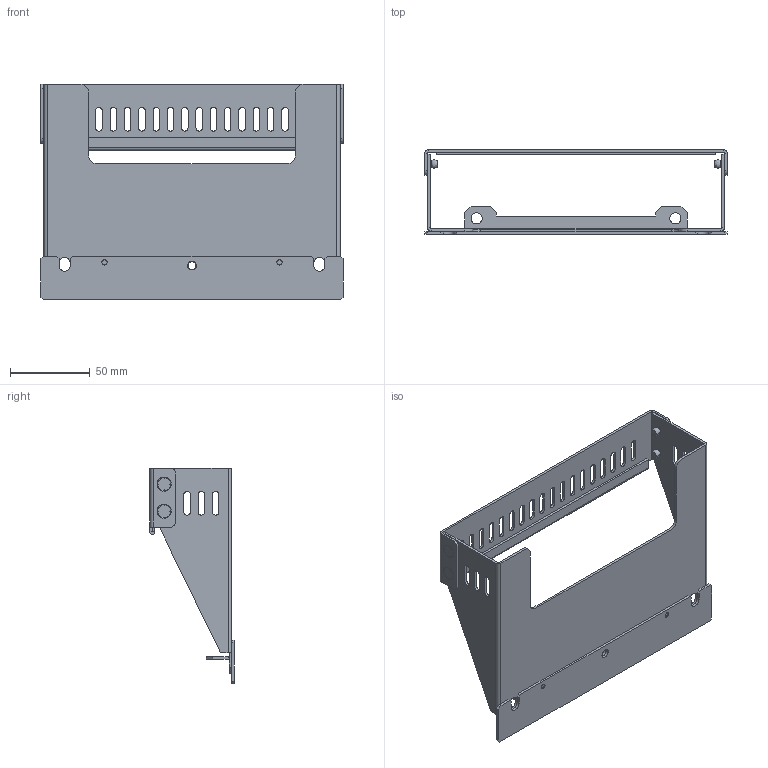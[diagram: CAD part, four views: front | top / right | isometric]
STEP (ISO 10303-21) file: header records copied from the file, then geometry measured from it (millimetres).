
FILE_DESCRIPTION((''),'2;1');
FILE_NAME('ZHZ-GA50V8_ASM','2020-10-19T',('anm'),('YASKAWA ELECTRIC CORCORATION'),'PRO/ENGINEER BY PARAMETRIC TECHNOLOGY CORPORATION, 2015440','PRO/ENGINEER BY PARAMETRIC TECHNOLOGY CORPORATION, 2015440','');
FILE_SCHEMA(('CONFIG_CONTROL_DESIGN'));
Length unit declared in the file: millimetre
Products named in the file (7): 400-125-064_1_1; 400-125-064_1_2; 400-125-064_1_ASM; 400-125-064_2; SK53BS_I2; 400-125-064_ASM; ZHZ-GA50V8_ASM
Assembly tree (9 placements, depth 4):
  ZHZ-GA50V8_ASM
    400-125-064_ASM
      400-125-064_1_ASM
        400-125-064_1_1
        400-125-064_1_2
      400-125-064_2
      SK53BS_I2  x4
Bounding box: 190 x 53 x 135.5 mm (x, y, z)
Volume: 61496.5 mm3; surface area: 81881.5 mm2
Topology: 9 solids, 9 shells, 315 faces, 811 edges, 514 vertices
Faces by surface type: plane 166, cylinder 125, cone 16, bspline 8
Entity records: 9253 total; most frequent: DIRECTION 1609, CARTESIAN_POINT 1604, ORIENTED_EDGE 1514, EDGE_CURVE 757, AXIS2_PLACEMENT_3D 545, VECTOR 519, LINE 519, VERTEX_POINT 484
